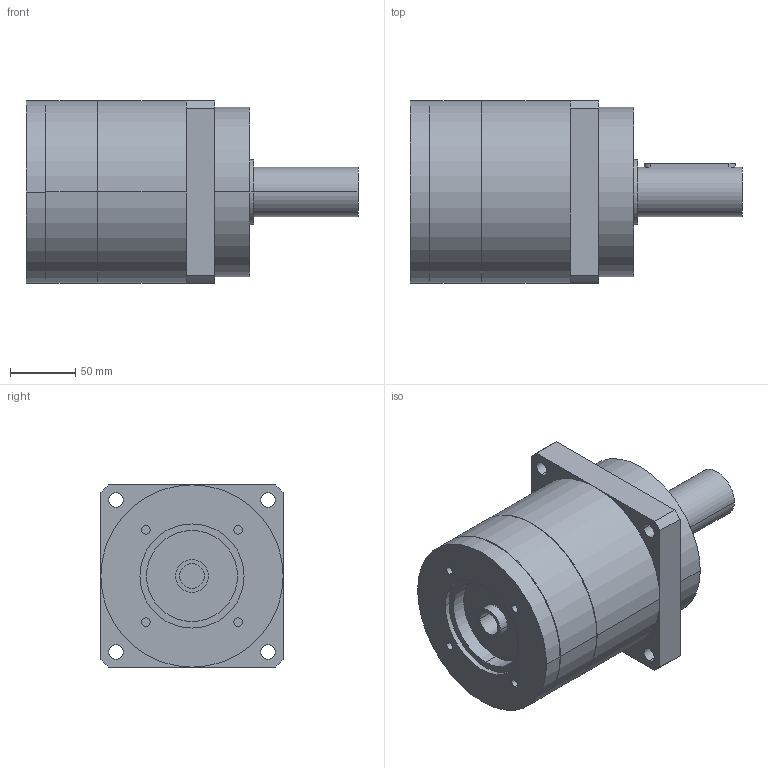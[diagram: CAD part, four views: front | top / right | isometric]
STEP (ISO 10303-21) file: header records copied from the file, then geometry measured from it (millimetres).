
FILE_DESCRIPTION(('CoCreate Modeling STEP Export'),'2;1');
FILE_NAME('GPR150_ig-3-4-5-7_38_B5_19_P02.stp','2014-08-19T16:42:05',(''),(''),'CoCreate Modeling STEP processor for AP214 (Solid Model)','CoCreate Modeling 16.00C 25-Feb-2009 (C) Parametric Technology GmbH','');
FILE_SCHEMA(('AUTOMOTIVE_DESIGN { 1 0 10303 214 1 1 1 1 }'));
Length unit declared in the file: millimetre
Products named in the file (2): GPR150_ig-3-4-5-7_38_B5_19_P02
Assembly tree (1 placements, depth 2):
  GPR150_ig-3-4-5-7_38_B5_19_P02
    GPR150_ig-3-4-5-7_38_B5_19_P02
Bounding box: 255 x 140 x 140 mm (x, y, z)
Volume: 2697535.1 mm3; surface area: 138215.8 mm2
Topology: 1 solids, 1 shells, 88 faces, 223 edges, 153 vertices
Faces by surface type: cylinder 52, plane 30, cone 6
Entity records: 2327 total; most frequent: ORIENTED_EDGE 442, CARTESIAN_POINT 426, DIRECTION 322, EDGE_CURVE 221, VERTEX_POINT 153, AXIS2_PLACEMENT_3D 121, EDGE_LOOP 114, FACE_OUTER_BOUND 88
